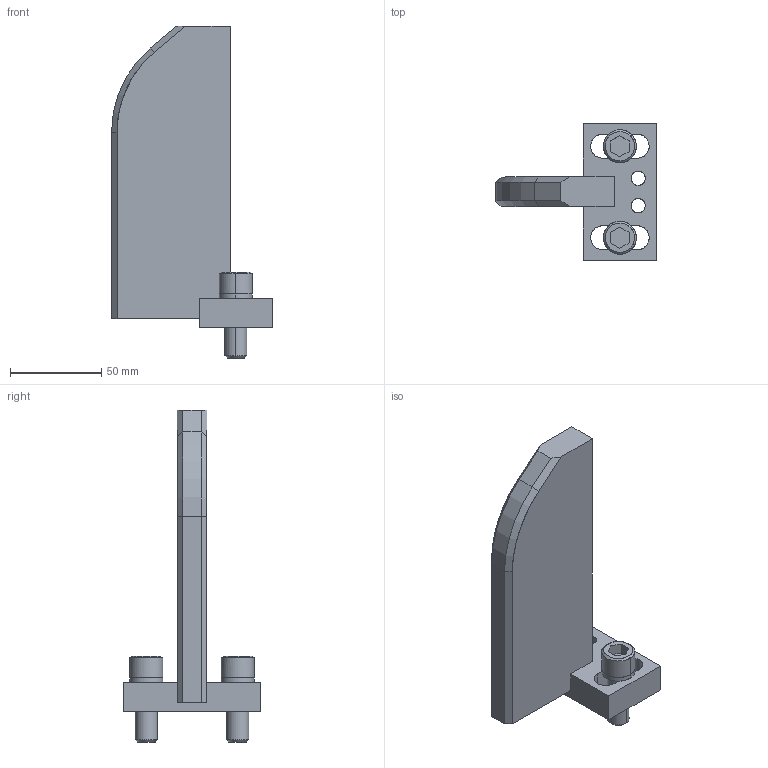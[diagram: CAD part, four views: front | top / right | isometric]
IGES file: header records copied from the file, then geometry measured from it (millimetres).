
Global section: file name: E:\UnigraphicsGraphicData\MISUMI_PRESS-PARTS\IGES\3d_ngwka-165-30-s65-k50-m12_01608_r00.igs; native system: NX V5.0; preprocessor: UGS NX IGES V5.0; author: MISUMI; date: 20110105.162120; units: millimetre
Bounding box: 88 x 75 x 181.5 mm (x, y, z)
Surface area: 44102 mm2 (no closed solid volume)
Topology: 0 solids, 0 shells, 104 faces, 666 edges, 666 vertices
Faces by surface type: bspline 104
